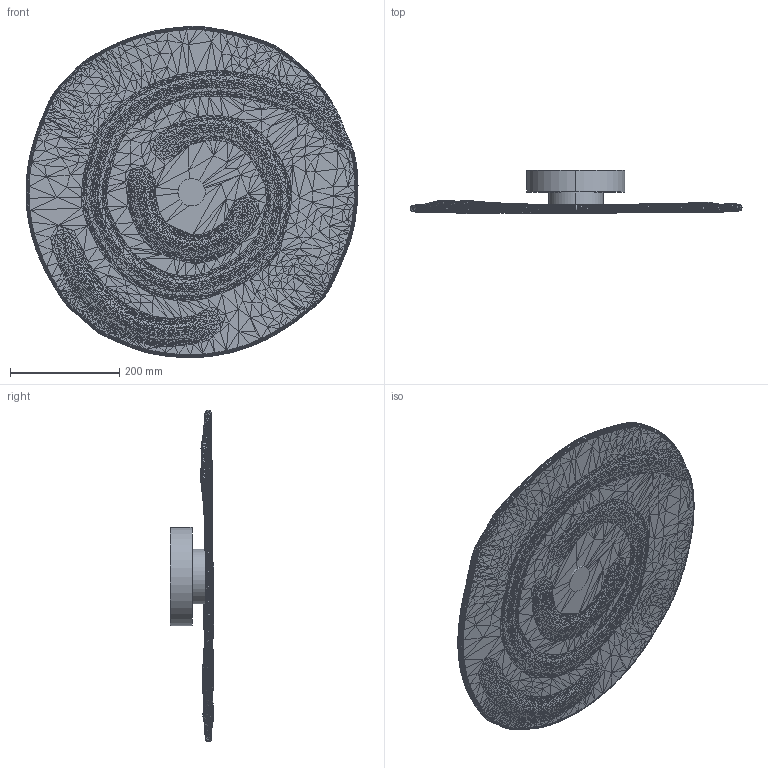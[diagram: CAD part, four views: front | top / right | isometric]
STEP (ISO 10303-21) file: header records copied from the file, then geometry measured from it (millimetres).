
FILE_DESCRIPTION (( 'STEP AP214' ), '1' );
FILE_NAME ('Aplique Disco Cristal 60.STEP', '2025-12-16T12:53:05', ( '' ), ( '' ), 'SwSTEP 2.0', 'SolidWorks 2023', '' );
FILE_SCHEMA (( 'AUTOMOTIVE_DESIGN' ));
Length unit declared in the file: millimetre
Products named in the file (1): Aplique Disco Cristal 60
Bounding box: 607.64 x 79.81 x 606.25 mm (x, y, z)
Volume: 4721362.2 mm3; surface area: 703002.4 mm2
Topology: 5 solids, 5 shells, 21578 faces, 32367 edges, 10799 vertices
Faces by surface type: plane 21570, cylinder 8
Entity records: 420906 total; most frequent: DIRECTION 75525, CARTESIAN_POINT 64793, ORIENTED_EDGE 64734, EDGE_CURVE 32367, LINE 32351, VECTOR 32351, AXIS2_PLACEMENT_3D 21587, EDGE_LOOP 21578
